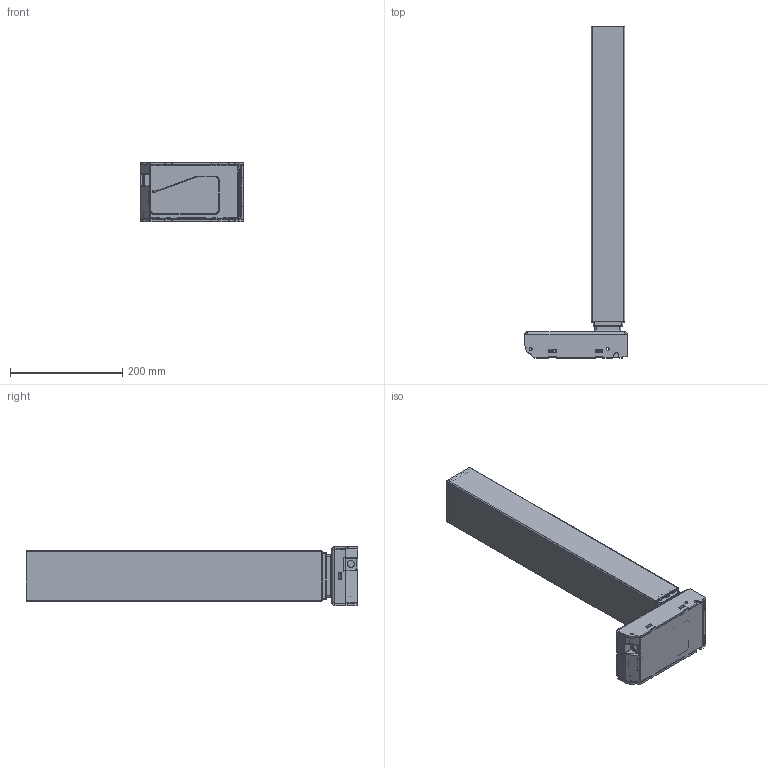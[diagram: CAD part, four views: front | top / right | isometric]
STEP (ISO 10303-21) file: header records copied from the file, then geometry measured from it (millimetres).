
FILE_DESCRIPTION (( 'STEP AP203' ), '1' );
FILE_NAME ('3D_TL31S.STEP', '2024-08-21T08:07:51', ( '' ), ( '' ), 'SwSTEP 2.0', 'SolidWorks 2015', '' );
FILE_SCHEMA (( 'CONFIG_CONTROL_DESIGN' ));
Length unit declared in the file: inch
Products named in the file (2): 3D_TL31S
Bounding box: 183.5 x 591.5 x 105.5 mm (x, y, z)
Volume: 844946 mm3; surface area: 986134.7 mm2
Topology: 14 solids, 14 shells, 1835 faces, 4816 edges, 2973 vertices
Faces by surface type: plane 801, cylinder 677, torus 215, bspline 89, cone 38, sphere 15
Entity records: 59327 total; most frequent: CARTESIAN_POINT 14292, ORIENTED_EDGE 9610, DIRECTION 9196, EDGE_CURVE 4805, AXIS2_PLACEMENT_3D 3127, VERTEX_POINT 2973, VECTOR 2942, LINE 2942
